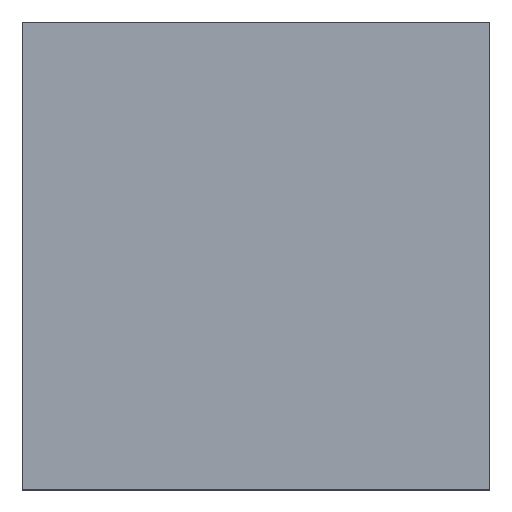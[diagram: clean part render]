
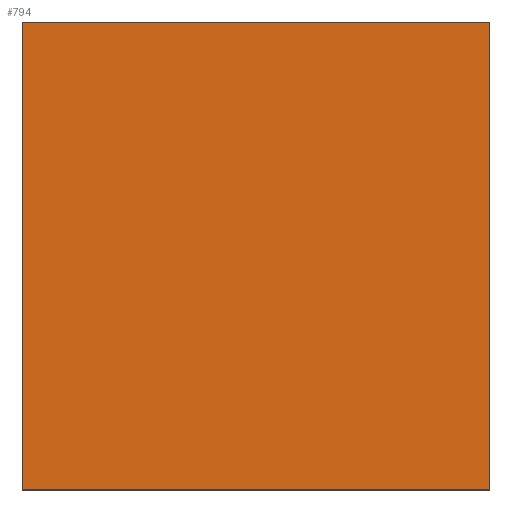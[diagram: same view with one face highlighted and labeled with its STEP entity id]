
A CAD part, top view. The second image highlights one B-rep face of the part: STEP entity #794.
In plain terms, the highlighted planar face has unit normal (0, 0, 1).
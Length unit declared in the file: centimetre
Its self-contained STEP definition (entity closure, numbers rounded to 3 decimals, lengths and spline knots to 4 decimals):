
#9 = CARTESIAN_POINT ( 'NONE',  ( 0., 1000., 1000. ) ) ;
#10 = ORIENTED_EDGE ( 'NONE', *, *, #637, .T. ) ;
#29 = CARTESIAN_POINT ( 'NONE',  ( 1000., 1000., 1000. ) ) ;
#52 = VECTOR ( 'NONE', #361, 100. ) ;
#101 = FACE_OUTER_BOUND ( 'NONE', #249, .T. ) ;
#109 = EDGE_CURVE ( 'NONE', #119, #742, #433, .T. ) ;
#119 = VERTEX_POINT ( 'NONE', #29 ) ;
#146 = EDGE_CURVE ( 'NONE', #742, #388, #196, .T. ) ;
#151 = CARTESIAN_POINT ( 'NONE',  ( 0., 0., 1000. ) ) ;
#196 = LINE ( 'NONE', #631, #205 ) ;
#205 = VECTOR ( 'NONE', #857, 100. ) ;
#249 = EDGE_LOOP ( 'NONE', ( #727, #625, #10, #696 ) ) ;
#311 = DIRECTION ( 'NONE',  ( 0., 0., 1. ) ) ;
#316 = PLANE ( 'NONE',  #698 ) ;
#361 = DIRECTION ( 'NONE',  ( 1., 0., 0. ) ) ;
#388 = VERTEX_POINT ( 'NONE', #151 ) ;
#433 = LINE ( 'NONE', #9, #526 ) ;
#445 = CARTESIAN_POINT ( 'NONE',  ( 0., 0., 1000. ) ) ;
#462 = VECTOR ( 'NONE', #810, 100. ) ;
#513 = LINE ( 'NONE', #793, #462 ) ;
#526 = VECTOR ( 'NONE', #671, 100. ) ;
#534 = VERTEX_POINT ( 'NONE', #700 ) ;
#598 = DIRECTION ( 'NONE',  ( 1., 0., 0. ) ) ;
#625 = ORIENTED_EDGE ( 'NONE', *, *, #649, .T. ) ;
#631 = CARTESIAN_POINT ( 'NONE',  ( 0., 1000., 1000. ) ) ;
#637 = EDGE_CURVE ( 'NONE', #534, #119, #513, .T. ) ;
#649 = EDGE_CURVE ( 'NONE', #388, #534, #732, .T. ) ;
#671 = DIRECTION ( 'NONE',  ( -1., 0., 0. ) ) ;
#674 = CARTESIAN_POINT ( 'NONE',  ( 0., 0., 1000. ) ) ;
#696 = ORIENTED_EDGE ( 'NONE', *, *, #109, .T. ) ;
#698 = AXIS2_PLACEMENT_3D ( 'NONE', #674, #311, #598 ) ;
#700 = CARTESIAN_POINT ( 'NONE',  ( 1000., 0., 1000. ) ) ;
#727 = ORIENTED_EDGE ( 'NONE', *, *, #146, .T. ) ;
#732 = LINE ( 'NONE', #445, #52 ) ;
#742 = VERTEX_POINT ( 'NONE', #903 ) ;
#793 = CARTESIAN_POINT ( 'NONE',  ( 1000., 1000., 1000. ) ) ;
#794 = ADVANCED_FACE ( 'NONE', ( #101 ), #316, .T. ) ;
#810 = DIRECTION ( 'NONE',  ( 0., 1., 0. ) ) ;
#857 = DIRECTION ( 'NONE',  ( 0., -1., 0. ) ) ;
#903 = CARTESIAN_POINT ( 'NONE',  ( 0., 1000., 1000. ) ) ;
